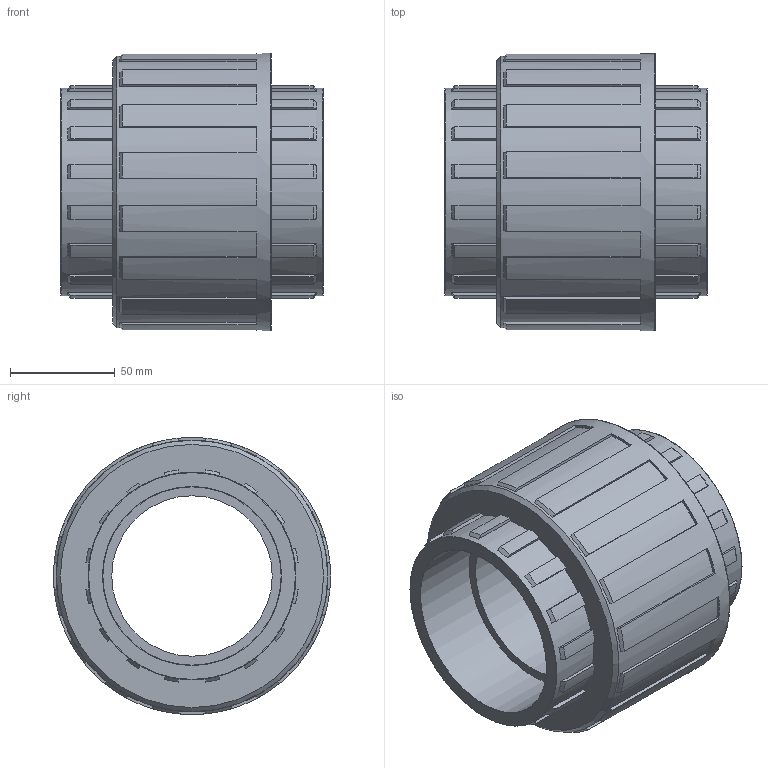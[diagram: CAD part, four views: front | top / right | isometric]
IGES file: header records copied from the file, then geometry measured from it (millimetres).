
Global section: file name: 050801030.ipt; native system: Autodesk Inventor 2015; preprocessor: unknown; author: KIM; date: 20171207.164936; units: millimetre
Bounding box: 125 x 132 x 132 mm (x, y, z)
Volume: 754558.4 mm3; surface area: 100290.1 mm2
Topology: 1 solids, 1 shells, 211 faces, 625 edges, 420 vertices
Faces by surface type: plane 118, cone 49, cylinder 36, revolution 8
Full cylindrical faces by diameter (mm): 98.854 x2, 129.36 x1, 132 x1
